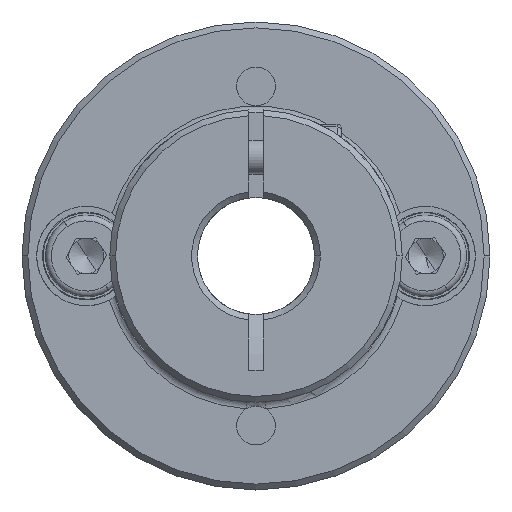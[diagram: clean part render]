
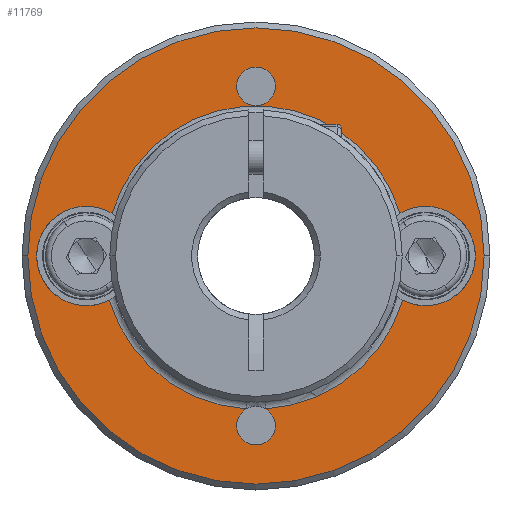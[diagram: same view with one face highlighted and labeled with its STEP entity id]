
A CAD part, front view. The second image highlights one B-rep face of the part: STEP entity #11769.
In plain terms, the highlighted planar face has unit normal (0, -1, 0).
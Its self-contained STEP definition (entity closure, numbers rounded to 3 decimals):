
#338 = CARTESIAN_POINT ( 'NONE',  ( 7.495, -13.63, 40. ) ) ;
#384 = VERTEX_POINT ( 'NONE', #9132 ) ;
#853 = DIRECTION ( 'NONE',  ( 0., -1., 0. ) ) ;
#893 = DIRECTION ( 'NONE',  ( 1., 0., 0. ) ) ;
#903 = EDGE_CURVE ( 'NONE', #4443, #12756, #8157, .T. ) ;
#1076 = DIRECTION ( 'NONE',  ( 1., 0., 0. ) ) ;
#1089 = DIRECTION ( 'NONE',  ( 1., 0., 0. ) ) ;
#1197 = DIRECTION ( 'NONE',  ( 0., 1., 0. ) ) ;
#1259 = AXIS2_PLACEMENT_3D ( 'NONE', #8995, #9828, #3100 ) ;
#1337 = CIRCLE ( 'NONE', #11786, 13.1 ) ;
#1340 = FACE_BOUND ( 'NONE', #9395, .T. ) ;
#1356 = CIRCLE ( 'NONE', #9874, 12.829 ) ;
#1396 = DIRECTION ( 'NONE',  ( 0., 1., 0. ) ) ;
#1420 = VERTEX_POINT ( 'NONE', #10803 ) ;
#1722 = CIRCLE ( 'NONE', #10150, 1.65 ) ;
#1759 = DIRECTION ( 'NONE',  ( 0., 1., 0. ) ) ;
#1791 = CARTESIAN_POINT ( 'NONE',  ( 0.54, -13.63, 36.226 ) ) ;
#1818 = DIRECTION ( 'NONE',  ( 1., 0., 0. ) ) ;
#2007 = EDGE_CURVE ( 'NONE', #4478, #4443, #10946, .T. ) ;
#2037 = EDGE_CURVE ( 'NONE', #7545, #384, #4918, .T. ) ;
#2121 = DIRECTION ( 'NONE',  ( 0., 1., 0. ) ) ;
#2246 = DIRECTION ( 'NONE',  ( 1., 0., 0. ) ) ;
#2335 = AXIS2_PLACEMENT_3D ( 'NONE', #11712, #4867, #9841 ) ;
#2455 = CIRCLE ( 'NONE', #2335, 19.5 ) ;
#2501 = CIRCLE ( 'NONE', #6634, 4.25 ) ;
#2542 = CARTESIAN_POINT ( 'NONE',  ( -11.175, -13.63, 26.926 ) ) ;
#2681 = AXIS2_PLACEMENT_3D ( 'NONE', #11008, #1197, #1076 ) ;
#2736 = DIRECTION ( 'NONE',  ( 0., 1., 0. ) ) ;
#2814 = DIRECTION ( 'NONE',  ( 1., 0., 0. ) ) ;
#2828 = VERTEX_POINT ( 'NONE', #9488 ) ;
#2854 = EDGE_CURVE ( 'NONE', #3512, #1420, #3120, .T. ) ;
#2974 = EDGE_CURVE ( 'NONE', #10165, #3512, #6810, .T. ) ;
#2990 = EDGE_CURVE ( 'NONE', #5975, #2828, #11451, .T. ) ;
#3077 = ORIENTED_EDGE ( 'NONE', *, *, #6173, .T. ) ;
#3100 = DIRECTION ( 'NONE',  ( 1., 0., 0. ) ) ;
#3120 = CIRCLE ( 'NONE', #6528, 4.25 ) ;
#3215 = DIRECTION ( 'NONE',  ( 0., 1., 0. ) ) ;
#3427 = EDGE_CURVE ( 'NONE', #10707, #3777, #6491, .T. ) ;
#3507 = EDGE_CURVE ( 'NONE', #384, #4478, #2501, .T. ) ;
#3512 = VERTEX_POINT ( 'NONE', #8980 ) ;
#3761 = ORIENTED_EDGE ( 'NONE', *, *, #3507, .T. ) ;
#3777 = VERTEX_POINT ( 'NONE', #6565 ) ;
#3853 = CARTESIAN_POINT ( 'NONE',  ( -12.005, -13.63, 54.5 ) ) ;
#3969 = ORIENTED_EDGE ( 'NONE', *, *, #10912, .T. ) ;
#3996 = DIRECTION ( 'NONE',  ( 1., 0., 0. ) ) ;
#4160 = ORIENTED_EDGE ( 'NONE', *, *, #2854, .T. ) ;
#4262 = CARTESIAN_POINT ( 'NONE',  ( 0.298, -13.63, 43.638 ) ) ;
#4303 = CIRCLE ( 'NONE', #7701, 1.65 ) ;
#4443 = VERTEX_POINT ( 'NONE', #2542 ) ;
#4478 = VERTEX_POINT ( 'NONE', #1791 ) ;
#4526 = AXIS2_PLACEMENT_3D ( 'NONE', #8690, #11595, #8648 ) ;
#4531 = ORIENTED_EDGE ( 'NONE', *, *, #2974, .T. ) ;
#4620 = CARTESIAN_POINT ( 'NONE',  ( -12.834, -13.63, 26.926 ) ) ;
#4704 = DIRECTION ( 'NONE',  ( 0., 1., 0. ) ) ;
#4804 = EDGE_CURVE ( 'NONE', #6105, #11605, #4303, .T. ) ;
#4867 = DIRECTION ( 'NONE',  ( 0., -1., 0. ) ) ;
#4918 = CIRCLE ( 'NONE', #8312, 4.25 ) ;
#5366 = DIRECTION ( 'NONE',  ( 1., 0., 0. ) ) ;
#5446 = DIRECTION ( 'NONE',  ( 0., 1., 0. ) ) ;
#5579 = DIRECTION ( 'NONE',  ( 1., 0., 0. ) ) ;
#5686 = CARTESIAN_POINT ( 'NONE',  ( -13.655, -13.63, 54.5 ) ) ;
#5743 = PLANE ( 'NONE',  #8167 ) ;
#5781 = DIRECTION ( 'NONE',  ( 1., 0., 0. ) ) ;
#5975 = VERTEX_POINT ( 'NONE', #338 ) ;
#6050 = CARTESIAN_POINT ( 'NONE',  ( -13.655, -13.63, 25.5 ) ) ;
#6105 = VERTEX_POINT ( 'NONE', #6050 ) ;
#6173 = EDGE_CURVE ( 'NONE', #12756, #6105, #1722, .T. ) ;
#6315 = ORIENTED_EDGE ( 'NONE', *, *, #3427, .T. ) ;
#6434 = ORIENTED_EDGE ( 'NONE', *, *, #6475, .T. ) ;
#6475 = EDGE_CURVE ( 'NONE', #2828, #5975, #2455, .T. ) ;
#6483 = EDGE_CURVE ( 'NONE', #3777, #10707, #10778, .T. ) ;
#6491 = CIRCLE ( 'NONE', #2681, 1.65 ) ;
#6528 = AXIS2_PLACEMENT_3D ( 'NONE', #12665, #2736, #11616 ) ;
#6565 = CARTESIAN_POINT ( 'NONE',  ( -10.355, -13.63, 54.5 ) ) ;
#6568 = FACE_BOUND ( 'NONE', #11860, .T. ) ;
#6623 = DIRECTION ( 'NONE',  ( 0., 1., 0. ) ) ;
#6634 = AXIS2_PLACEMENT_3D ( 'NONE', #7905, #2121, #3996 ) ;
#6639 = CARTESIAN_POINT ( 'NONE',  ( -12.005, -13.63, 40. ) ) ;
#6810 = CIRCLE ( 'NONE', #12758, 4.25 ) ;
#7452 = ORIENTED_EDGE ( 'NONE', *, *, #2007, .T. ) ;
#7491 = FACE_OUTER_BOUND ( 'NONE', #9814, .T. ) ;
#7545 = VERTEX_POINT ( 'NONE', #4262 ) ;
#7647 = ORIENTED_EDGE ( 'NONE', *, *, #2990, .T. ) ;
#7701 = AXIS2_PLACEMENT_3D ( 'NONE', #10754, #11663, #1818 ) ;
#7879 = CARTESIAN_POINT ( 'NONE',  ( -26.505, -13.63, 40. ) ) ;
#7905 = CARTESIAN_POINT ( 'NONE',  ( 2.495, -13.63, 40. ) ) ;
#8001 = DIRECTION ( 'NONE',  ( 0., 1., 0. ) ) ;
#8157 = CIRCLE ( 'NONE', #12568, 1.65 ) ;
#8167 = AXIS2_PLACEMENT_3D ( 'NONE', #11668, #853, #5781 ) ;
#8312 = AXIS2_PLACEMENT_3D ( 'NONE', #10688, #6623, #5579 ) ;
#8648 = DIRECTION ( 'NONE',  ( 1., 0., 0. ) ) ;
#8690 = CARTESIAN_POINT ( 'NONE',  ( -12.005, -13.63, 40. ) ) ;
#8980 = CARTESIAN_POINT ( 'NONE',  ( -30.755, -13.63, 40. ) ) ;
#8986 = CARTESIAN_POINT ( 'NONE',  ( -12.005, -13.63, 25.5 ) ) ;
#8995 = CARTESIAN_POINT ( 'NONE',  ( -12.005, -13.63, 40. ) ) ;
#9132 = CARTESIAN_POINT ( 'NONE',  ( 6.745, -13.63, 40. ) ) ;
#9164 = CARTESIAN_POINT ( 'NONE',  ( -12.005, -13.63, 40. ) ) ;
#9207 = ORIENTED_EDGE ( 'NONE', *, *, #10777, .T. ) ;
#9395 = EDGE_LOOP ( 'NONE', ( #6315, #10004 ) ) ;
#9488 = CARTESIAN_POINT ( 'NONE',  ( -31.505, -13.63, 40. ) ) ;
#9814 = EDGE_LOOP ( 'NONE', ( #6434, #7647 ) ) ;
#9828 = DIRECTION ( 'NONE',  ( 0., -1., 0. ) ) ;
#9841 = DIRECTION ( 'NONE',  ( 1., 0., 0. ) ) ;
#9874 = AXIS2_PLACEMENT_3D ( 'NONE', #6639, #1759, #2814 ) ;
#10004 = ORIENTED_EDGE ( 'NONE', *, *, #6483, .T. ) ;
#10150 = AXIS2_PLACEMENT_3D ( 'NONE', #11371, #5446, #5366 ) ;
#10165 = VERTEX_POINT ( 'NONE', #11487 ) ;
#10688 = CARTESIAN_POINT ( 'NONE',  ( 2.495, -13.63, 40. ) ) ;
#10707 = VERTEX_POINT ( 'NONE', #5686 ) ;
#10753 = AXIS2_PLACEMENT_3D ( 'NONE', #3853, #4704, #893 ) ;
#10754 = CARTESIAN_POINT ( 'NONE',  ( -12.005, -13.63, 25.5 ) ) ;
#10777 = EDGE_CURVE ( 'NONE', #1420, #7545, #1356, .T. ) ;
#10778 = CIRCLE ( 'NONE', #10753, 1.65 ) ;
#10803 = CARTESIAN_POINT ( 'NONE',  ( -24.307, -13.63, 43.638 ) ) ;
#10912 = EDGE_CURVE ( 'NONE', #11605, #10165, #1337, .T. ) ;
#10946 = CIRCLE ( 'NONE', #4526, 13.1 ) ;
#10973 = DIRECTION ( 'NONE',  ( 1., 0., 0. ) ) ;
#11008 = CARTESIAN_POINT ( 'NONE',  ( -12.005, -13.63, 54.5 ) ) ;
#11068 = ORIENTED_EDGE ( 'NONE', *, *, #4804, .T. ) ;
#11371 = CARTESIAN_POINT ( 'NONE',  ( -12.005, -13.63, 25.5 ) ) ;
#11451 = CIRCLE ( 'NONE', #1259, 19.5 ) ;
#11487 = CARTESIAN_POINT ( 'NONE',  ( -24.55, -13.63, 36.226 ) ) ;
#11595 = DIRECTION ( 'NONE',  ( 0., 1., 0. ) ) ;
#11605 = VERTEX_POINT ( 'NONE', #4620 ) ;
#11616 = DIRECTION ( 'NONE',  ( 1., 0., 0. ) ) ;
#11630 = ORIENTED_EDGE ( 'NONE', *, *, #903, .T. ) ;
#11663 = DIRECTION ( 'NONE',  ( 0., 1., 0. ) ) ;
#11668 = CARTESIAN_POINT ( 'NONE',  ( -12.005, -13.63, 40. ) ) ;
#11712 = CARTESIAN_POINT ( 'NONE',  ( -12.005, -13.63, 40. ) ) ;
#11745 = ORIENTED_EDGE ( 'NONE', *, *, #2037, .T. ) ;
#11769 = ADVANCED_FACE ( 'NONE', ( #7491, #6568, #1340 ), #5743, .T. ) ;
#11786 = AXIS2_PLACEMENT_3D ( 'NONE', #9164, #1396, #2246 ) ;
#11860 = EDGE_LOOP ( 'NONE', ( #4531, #4160, #9207, #11745, #3761, #7452, #11630, #3077, #11068, #3969 ) ) ;
#12333 = CARTESIAN_POINT ( 'NONE',  ( -10.355, -13.63, 25.5 ) ) ;
#12568 = AXIS2_PLACEMENT_3D ( 'NONE', #8986, #3215, #10973 ) ;
#12665 = CARTESIAN_POINT ( 'NONE',  ( -26.505, -13.63, 40. ) ) ;
#12756 = VERTEX_POINT ( 'NONE', #12333 ) ;
#12758 = AXIS2_PLACEMENT_3D ( 'NONE', #7879, #8001, #1089 ) ;
